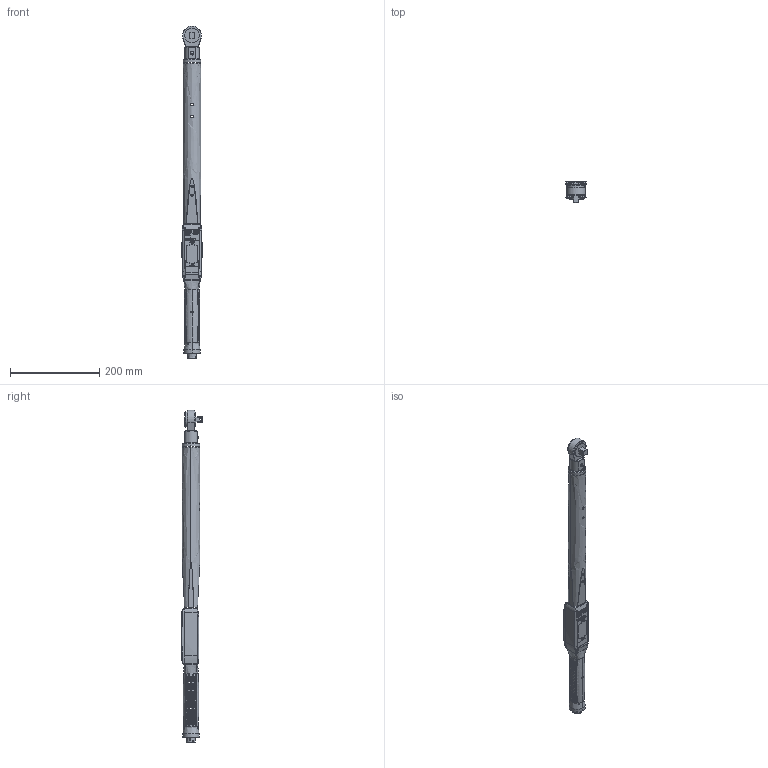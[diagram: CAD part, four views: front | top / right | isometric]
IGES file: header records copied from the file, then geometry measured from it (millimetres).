
Start section:  PTC IGES file: 6152210420_dim.igs
Global section: file name: 6152210420_dim.igs; native system: Creo Parametric by PTC Inc.; preprocessor: 2021072; author: S00000450; organization: Unknown; date: 20211206.163500; units: millimetre
Bounding box: 45.16 x 48.56 x 743.7 mm (x, y, z)
Surface area: 95530.6 mm2 (no closed solid volume)
Topology: 0 solids, 0 shells, 6114 faces, 33962 edges, 35491 vertices
Faces by surface type: bspline 3007, extrusion 2558, revolution 549
